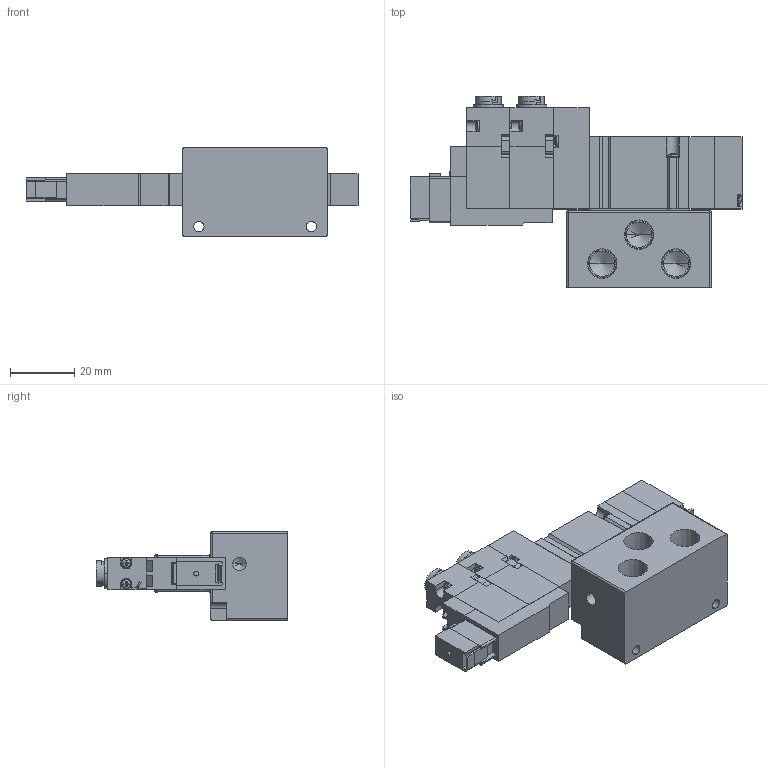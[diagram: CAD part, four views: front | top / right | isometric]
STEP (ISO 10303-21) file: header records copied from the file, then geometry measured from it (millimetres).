
FILE_DESCRIPTION (( 'STEP AP203' ), '1' );
FILE_NAME ('A05GD(E¡BO)35-#-#-#-E.STEP', '2016-02-04T01:58:27', ( 'Sam Lin' ), ( '' ), 'SwSTEP 2.0', 'SolidWorks 2013', '' );
FILE_SCHEMA (( 'CONFIG_CONTROL_DESIGN' ));
Length unit declared in the file: metre
Products named in the file (18): A05GS25-2; 零件6^A05PS25-#-#-#; A05P底座; A05GD(E、O)35-#-#-#-E; 零件7^A05PS25-#-#-#; 零件2^A05PS25-#-#-#; 零件8^A05PS25-#-#-#; 零件3^A05PS25-#-#-#; DC24-A05G-3; ISO 7045 - M1.6 x 10; 零件11^A05PS25-#-#-#; DC24-A05G-5; DC24-A05G-4; 零件12^A05PS25-#-#-#; DC24-A05G-1; mark-ADEX; DC24-A05G-2; 零件5^A05PS25-#-#-#
Assembly tree (33 placements, depth 2):
  A05GD(E、O)35-#-#-#-E
    A05P底座
    零件2^A05PS25-#-#-#
    零件3^A05PS25-#-#-#
    ISO 7045 - M1.6 x 10  x10
    DC24-A05G-5
    零件12^A05PS25-#-#-#
    mark-ADEX
    零件5^A05PS25-#-#-#  x2
    零件6^A05PS25-#-#-#  x2
    零件7^A05PS25-#-#-#  x4
    零件8^A05PS25-#-#-#  x2
    DC24-A05G-3
    零件11^A05PS25-#-#-#  x2
    DC24-A05G-4
    DC24-A05G-1
    DC24-A05G-2
    A05GS25-2
Bounding box: 103.3 x 59.6 x 27.5 mm (x, y, z)
Volume: 51203.7 mm3; surface area: 24270.4 mm2
Topology: 41 solids, 41 shells, 1094 faces, 2756 edges, 1749 vertices
Faces by surface type: plane 715, cylinder 195, cone 114, bspline 70
Entity records: 19641 total; most frequent: CARTESIAN_POINT 3375, DIRECTION 2868, ORIENTED_EDGE 2862, EDGE_CURVE 1431, VECTOR 1072, LINE 1072, VERTEX_POINT 941, AXIS2_PLACEMENT_3D 898
